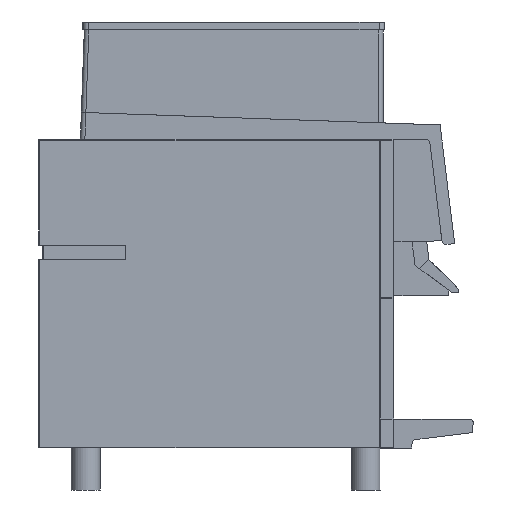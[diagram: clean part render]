
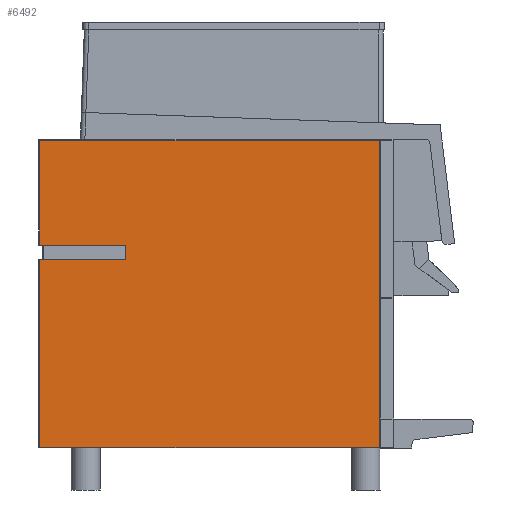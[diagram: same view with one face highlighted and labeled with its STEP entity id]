
A CAD part, left-side view. The second image highlights one B-rep face of the part: STEP entity #6492.
In plain terms, the highlighted planar face has unit normal (-1, 0, 0).
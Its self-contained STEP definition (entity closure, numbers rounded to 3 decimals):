
#614=ORIENTED_EDGE('',*,*,#1858,.F.);
#615=ORIENTED_EDGE('',*,*,#1963,.T.);
#616=ORIENTED_EDGE('',*,*,#1964,.T.);
#617=ORIENTED_EDGE('',*,*,#1965,.T.);
#618=ORIENTED_EDGE('',*,*,#1966,.F.);
#619=ORIENTED_EDGE('',*,*,#1967,.F.);
#620=ORIENTED_EDGE('',*,*,#1968,.F.);
#621=ORIENTED_EDGE('',*,*,#1969,.T.);
#622=ORIENTED_EDGE('',*,*,#1970,.T.);
#623=ORIENTED_EDGE('',*,*,#1971,.T.);
#1858=EDGE_CURVE('',#2532,#2533,#2950,.T.);
#1963=EDGE_CURVE('',#2532,#2612,#3038,.T.);
#1964=EDGE_CURVE('',#2612,#2613,#3039,.F.);
#1965=EDGE_CURVE('',#2613,#2614,#3040,.F.);
#1966=EDGE_CURVE('',#2615,#2614,#3041,.T.);
#1967=EDGE_CURVE('',#2616,#2615,#3042,.T.);
#1968=EDGE_CURVE('',#2617,#2616,#3043,.T.);
#1969=EDGE_CURVE('',#2617,#2618,#3044,.T.);
#1970=EDGE_CURVE('',#2618,#2619,#3045,.T.);
#1971=EDGE_CURVE('',#2619,#2533,#3046,.F.);
#2532=VERTEX_POINT('',#8856);
#2533=VERTEX_POINT('',#8858);
#2612=VERTEX_POINT('',#9067);
#2613=VERTEX_POINT('',#9069);
#2614=VERTEX_POINT('',#9071);
#2615=VERTEX_POINT('',#9073);
#2616=VERTEX_POINT('',#9075);
#2617=VERTEX_POINT('',#9077);
#2618=VERTEX_POINT('',#9079);
#2619=VERTEX_POINT('',#9081);
#2950=LINE('',#8857,#3495);
#3038=LINE('',#9066,#3583);
#3039=LINE('',#9068,#3584);
#3040=LINE('',#9070,#3585);
#3041=LINE('',#9072,#3586);
#3042=LINE('',#9074,#3587);
#3043=LINE('',#9076,#3588);
#3044=LINE('',#9078,#3589);
#3045=LINE('',#9080,#3590);
#3046=LINE('',#9082,#3591);
#3495=VECTOR('',#7407,1000.);
#3583=VECTOR('',#7579,1000.);
#3584=VECTOR('',#7580,1000.);
#3585=VECTOR('',#7581,1000.);
#3586=VECTOR('',#7582,1000.);
#3587=VECTOR('',#7583,1000.);
#3588=VECTOR('',#7584,1000.);
#3589=VECTOR('',#7585,1000.);
#3590=VECTOR('',#7586,1000.);
#3591=VECTOR('',#7587,1000.);
#3965=EDGE_LOOP('',(#614,#615,#616,#617,#618,#619,#620,#621,#622,#623));
#4238=FACE_BOUND('',#3965,.T.);
#4494=PLANE('',#6826);
#6492=ADVANCED_FACE('',(#4238),#4494,.F.);
#6826=AXIS2_PLACEMENT_3D('',#9065,#7577,#7578);
#7407=DIRECTION('',(0.,1.,0.));
#7577=DIRECTION('',(1.,0.,0.));
#7578=DIRECTION('',(0.,1.,0.));
#7579=DIRECTION('',(0.,0.,1.));
#7580=DIRECTION('',(0.,-1.,0.));
#7581=DIRECTION('',(0.,0.,1.));
#7582=DIRECTION('',(0.,1.,0.));
#7583=DIRECTION('',(0.,1.,0.));
#7584=DIRECTION('',(0.,0.,1.));
#7585=DIRECTION('',(0.,1.,0.));
#7586=DIRECTION('',(0.,1.,0.));
#7587=DIRECTION('',(0.,0.,1.));
#8856=CARTESIAN_POINT('',(-114.,-470.,0.));
#8857=CARTESIAN_POINT('',(-114.,-490.,0.));
#8858=CARTESIAN_POINT('',(-114.,-1.2,0.));
#9065=CARTESIAN_POINT('',(-114.,0.,0.));
#9066=CARTESIAN_POINT('',(-114.,-470.,420.5));
#9067=CARTESIAN_POINT('',(-114.,-470.,424.8));
#9068=CARTESIAN_POINT('',(-114.,0.,424.8));
#9069=CARTESIAN_POINT('',(-114.,-1.2,424.8));
#9070=CARTESIAN_POINT('',(-114.,-1.2,0.));
#9071=CARTESIAN_POINT('',(-114.,-1.2,280.));
#9072=CARTESIAN_POINT('',(-114.,-5.,280.));
#9073=CARTESIAN_POINT('',(-114.,-5.133,280.));
#9074=CARTESIAN_POINT('',(-114.,-120.,280.));
#9075=CARTESIAN_POINT('',(-114.,-120.,280.));
#9076=CARTESIAN_POINT('',(-114.,-120.,260.));
#9077=CARTESIAN_POINT('',(-114.,-120.,260.));
#9078=CARTESIAN_POINT('',(-114.,-120.,260.));
#9079=CARTESIAN_POINT('',(-114.,-5.133,260.));
#9080=CARTESIAN_POINT('',(-114.,-5.,260.));
#9081=CARTESIAN_POINT('',(-114.,-1.2,260.));
#9082=CARTESIAN_POINT('',(-114.,-1.2,0.));
